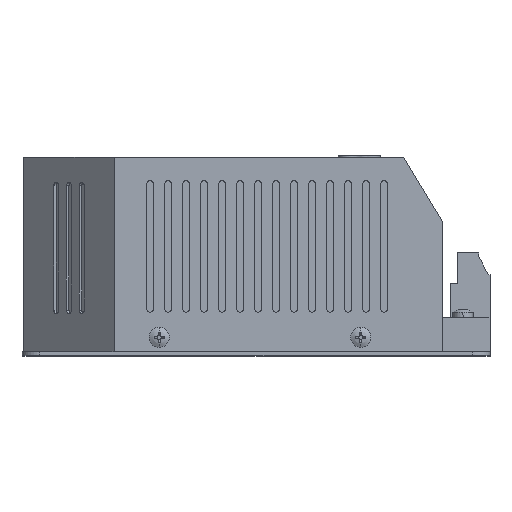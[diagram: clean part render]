
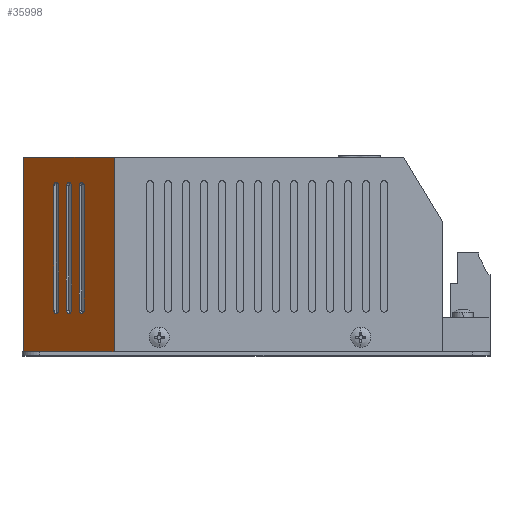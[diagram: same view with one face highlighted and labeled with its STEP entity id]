
A CAD part, top view. The second image highlights one B-rep face of the part: STEP entity #35998.
In plain terms, the highlighted planar face has unit normal (-0.707, 0, 0.707).
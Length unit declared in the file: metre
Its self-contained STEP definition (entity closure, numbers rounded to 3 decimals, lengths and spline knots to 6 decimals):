
#4152=DIRECTION('',(0.707,0.,0.707));
#4153=VECTOR('',#4152,0.035497);
#4154=CARTESIAN_POINT('',(-0.0645,0.055,0.04615));
#4155=LINE('',#4154,#4153);
#9796=DIRECTION('',(-0.707,0.,-0.707));
#9797=VECTOR('',#9796,0.001768);
#9798=CARTESIAN_POINT('',(-0.0394,0.001,0.07125));
#9799=LINE('',#9798,#9797);
#9942=DIRECTION('',(0.,-1.,0.));
#9943=VECTOR('',#9942,0.054);
#9944=CARTESIAN_POINT('',(-0.0394,0.055,0.07125));
#9945=LINE('',#9944,#9943);
#11308=DIRECTION('',(0.707,0.,0.707));
#11309=VECTOR('',#11308,0.033729);
#11310=CARTESIAN_POINT('',(-0.0645,0.001,0.04615));
#11311=LINE('',#11310,#11309);
#11312=CARTESIAN_POINT('',(-0.05195,0.012603,
0.0587));
#11313=DIRECTION('',(-0.707,0.,0.707));
#11314=DIRECTION('',(-0.707,0.,-0.707));
#11315=AXIS2_PLACEMENT_3D('',#11312,#11313,#11314);
#11321=DIRECTION('',(0.,-1.,0.));
#11322=VECTOR('',#11321,0.0345);
#11323=CARTESIAN_POINT('',(-0.052657,0.047103,
0.057993));
#11324=LINE('',#11323,#11322);
#11325=CARTESIAN_POINT('',(-0.05195,0.047103,
0.0587));
#11326=DIRECTION('',(-0.707,0.,0.707));
#11327=DIRECTION('',(0.707,0.,0.707));
#11328=AXIS2_PLACEMENT_3D('',#11325,#11326,#11327);
#11342=DIRECTION('',(0.,1.,0.));
#11343=VECTOR('',#11342,0.0345);
#11344=CARTESIAN_POINT('',(-0.051243,0.012603,
0.059407));
#11345=LINE('',#11344,#11343);
#11364=CARTESIAN_POINT('',(-0.055486,0.012603,
0.055164));
#11365=DIRECTION('',(-0.707,0.,0.707));
#11366=DIRECTION('',(-0.707,0.,-0.707));
#11367=AXIS2_PLACEMENT_3D('',#11364,#11365,#11366);
#11373=DIRECTION('',(0.,-1.,0.));
#11374=VECTOR('',#11373,0.0345);
#11375=CARTESIAN_POINT('',(-0.056193,0.047103,
0.054457));
#11376=LINE('',#11375,#11374);
#11377=CARTESIAN_POINT('',(-0.055486,0.047103,
0.055164));
#11378=DIRECTION('',(-0.707,0.,0.707));
#11379=DIRECTION('',(0.707,0.,0.707));
#11380=AXIS2_PLACEMENT_3D('',#11377,#11378,#11379);
#11394=DIRECTION('',(0.,1.,0.));
#11395=VECTOR('',#11394,0.0345);
#11396=CARTESIAN_POINT('',(-0.054778,0.012603,
0.055872));
#11397=LINE('',#11396,#11395);
#11416=CARTESIAN_POINT('',(-0.048414,0.012603,
0.062236));
#11417=DIRECTION('',(-0.707,0.,0.707));
#11418=DIRECTION('',(-0.707,0.,-0.707));
#11419=AXIS2_PLACEMENT_3D('',#11416,#11417,#11418);
#11425=DIRECTION('',(0.,-1.,0.));
#11426=VECTOR('',#11425,0.0345);
#11427=CARTESIAN_POINT('',(-0.049122,0.047103,
0.061528));
#11428=LINE('',#11427,#11426);
#11429=CARTESIAN_POINT('',(-0.048414,0.047103,
0.062236));
#11430=DIRECTION('',(-0.707,0.,0.707));
#11431=DIRECTION('',(0.707,0.,0.707));
#11432=AXIS2_PLACEMENT_3D('',#11429,#11430,#11431);
#11446=DIRECTION('',(0.,1.,0.));
#11447=VECTOR('',#11446,0.0345);
#11448=CARTESIAN_POINT('',(-0.047707,0.012603,
0.062943));
#11449=LINE('',#11448,#11447);
#11476=DIRECTION('',(0.,1.,0.));
#11477=VECTOR('',#11476,0.054);
#11478=CARTESIAN_POINT('',(-0.0645,0.001,0.04615));
#11479=LINE('',#11478,#11477);
#14887=CARTESIAN_POINT('',(-0.0394,0.001,0.07125));
#14889=VERTEX_POINT('',#14887);
#14890=CARTESIAN_POINT('',(-0.04065,0.001,
0.07));
#14891=VERTEX_POINT('',#14890);
#15304=CARTESIAN_POINT('',(-0.047707,0.047103,
0.062943));
#15305=VERTEX_POINT('',#15304);
#15306=CARTESIAN_POINT('',(-0.047707,0.012603,
0.062943));
#15307=VERTEX_POINT('',#15306);
#15308=CARTESIAN_POINT('',(-0.049122,0.012603,
0.061528));
#15309=VERTEX_POINT('',#15308);
#15310=CARTESIAN_POINT('',(-0.049122,0.047103,
0.061528));
#15311=VERTEX_POINT('',#15310);
#15312=CARTESIAN_POINT('',(-0.054778,0.047103,
0.055872));
#15313=VERTEX_POINT('',#15312);
#15316=CARTESIAN_POINT('',(-0.054778,0.012603,
0.055872));
#15317=VERTEX_POINT('',#15316);
#15318=CARTESIAN_POINT('',(-0.056193,0.012603,
0.054457));
#15319=VERTEX_POINT('',#15318);
#15320=CARTESIAN_POINT('',(-0.056193,0.047103,
0.054457));
#15321=VERTEX_POINT('',#15320);
#15322=CARTESIAN_POINT('',(-0.051243,0.047103,
0.059407));
#15323=VERTEX_POINT('',#15322);
#15324=CARTESIAN_POINT('',(-0.051243,0.012603,
0.059407));
#15325=VERTEX_POINT('',#15324);
#15326=CARTESIAN_POINT('',(-0.052657,0.012603,
0.057993));
#15327=VERTEX_POINT('',#15326);
#15328=CARTESIAN_POINT('',(-0.052657,0.047103,
0.057993));
#15329=VERTEX_POINT('',#15328);
#15348=CARTESIAN_POINT('',(-0.0394,0.055,0.07125));
#15349=VERTEX_POINT('',#15348);
#15813=CARTESIAN_POINT('',(-0.0645,0.055,0.04615));
#15815=VERTEX_POINT('',#15813);
#15816=CARTESIAN_POINT('',(-0.0645,0.001,0.04615));
#15817=VERTEX_POINT('',#15816);
#35955=CARTESIAN_POINT('',(-0.05195,0.028,0.0587));
#35956=DIRECTION('',(0.707,0.,-0.707));
#35957=DIRECTION('',(0.707,0.,0.707));
#35958=AXIS2_PLACEMENT_3D('',#35955,#35956,#35957);
#35959=PLANE('',#35958);
#35960=ORIENTED_EDGE('',*,*,#33732,.T.);
#35961=ORIENTED_EDGE('',*,*,#33332,.T.);
#35962=ORIENTED_EDGE('',*,*,#18909,.F.);
#35964=ORIENTED_EDGE('',*,*,#35963,.T.);
#35965=ORIENTED_EDGE('',*,*,#22004,.T.);
#35966=EDGE_LOOP('',(#35960,#35961,#35962,#35964,#35965));
#35967=FACE_OUTER_BOUND('',#35966,.F.);
#35969=ORIENTED_EDGE('',*,*,#35968,.T.);
#35971=ORIENTED_EDGE('',*,*,#35970,.T.);
#35973=ORIENTED_EDGE('',*,*,#35972,.T.);
#35975=ORIENTED_EDGE('',*,*,#35974,.T.);
#35976=EDGE_LOOP('',(#35969,#35971,#35973,#35975));
#35977=FACE_BOUND('',#35976,.F.);
#35979=ORIENTED_EDGE('',*,*,#35978,.T.);
#35981=ORIENTED_EDGE('',*,*,#35980,.T.);
#35983=ORIENTED_EDGE('',*,*,#35982,.T.);
#35985=ORIENTED_EDGE('',*,*,#35984,.T.);
#35986=EDGE_LOOP('',(#35979,#35981,#35983,#35985));
#35987=FACE_BOUND('',#35986,.F.);
#35989=ORIENTED_EDGE('',*,*,#35988,.T.);
#35991=ORIENTED_EDGE('',*,*,#35990,.T.);
#35993=ORIENTED_EDGE('',*,*,#35992,.T.);
#35995=ORIENTED_EDGE('',*,*,#35994,.T.);
#35996=EDGE_LOOP('',(#35989,#35991,#35993,#35995));
#35997=FACE_BOUND('',#35996,.F.);
#11316=CIRCLE('',#11315,0.001);
#11329=CIRCLE('',#11328,0.001);
#11368=CIRCLE('',#11367,0.001);
#11381=CIRCLE('',#11380,0.001);
#11420=CIRCLE('',#11419,0.001);
#11433=CIRCLE('',#11432,0.001);
#18909=EDGE_CURVE('',#15817,#14891,#11311,.T.);
#22004=EDGE_CURVE('',#15815,#15349,#4155,.T.);
#33332=EDGE_CURVE('',#14889,#14891,#9799,.T.);
#33732=EDGE_CURVE('',#15349,#14889,#9945,.T.);
#35963=EDGE_CURVE('',#15817,#15815,#11479,.T.);
#35968=EDGE_CURVE('',#15319,#15317,#11368,.T.);
#35970=EDGE_CURVE('',#15317,#15313,#11397,.T.);
#35972=EDGE_CURVE('',#15313,#15321,#11381,.T.);
#35974=EDGE_CURVE('',#15321,#15319,#11376,.T.);
#35978=EDGE_CURVE('',#15309,#15307,#11420,.T.);
#35980=EDGE_CURVE('',#15307,#15305,#11449,.T.);
#35982=EDGE_CURVE('',#15305,#15311,#11433,.T.);
#35984=EDGE_CURVE('',#15311,#15309,#11428,.T.);
#35988=EDGE_CURVE('',#15327,#15325,#11316,.T.);
#35990=EDGE_CURVE('',#15325,#15323,#11345,.T.);
#35992=EDGE_CURVE('',#15323,#15329,#11329,.T.);
#35994=EDGE_CURVE('',#15329,#15327,#11324,.T.);
#35998=ADVANCED_FACE('',(#35967,#35977,#35987,#35997),#35959,.F.);
